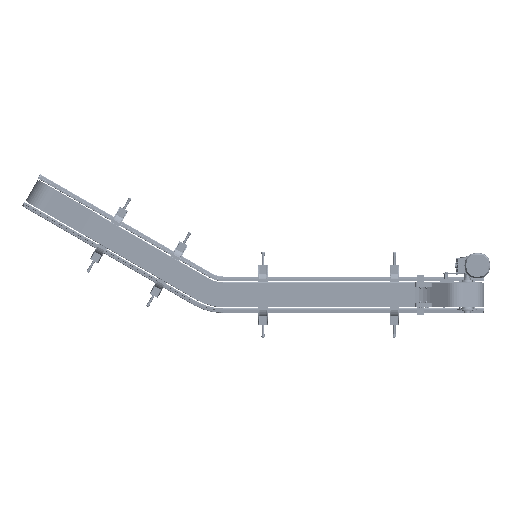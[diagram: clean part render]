
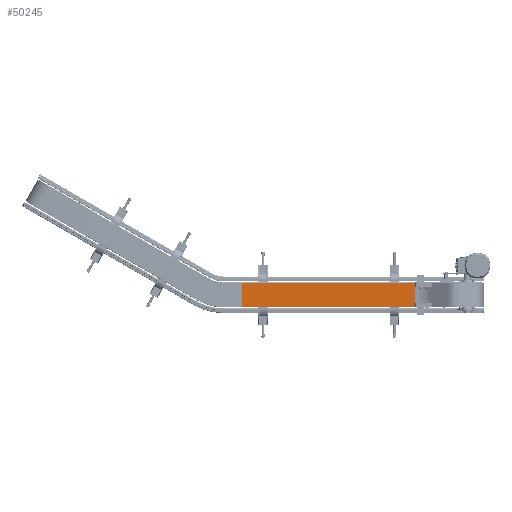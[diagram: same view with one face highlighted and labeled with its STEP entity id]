
A CAD part, front view. The second image highlights one B-rep face of the part: STEP entity #50245.
In plain terms, the highlighted planar face has unit normal (0, -1, 0).
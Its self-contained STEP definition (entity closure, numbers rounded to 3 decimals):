
#1324 = DIRECTION ( 'NONE',  ( 0., 0., 1. ) ) ;
#7129 = DIRECTION ( 'NONE',  ( 1., 0., 0. ) ) ;
#14271 = CARTESIAN_POINT ( 'NONE',  ( -57.15, -105.8, 0. ) ) ;
#28566 = DIRECTION ( 'NONE',  ( 0., 0., 1. ) ) ;
#31415 = VERTEX_POINT ( 'NONE', #113835 ) ;
#32348 = CARTESIAN_POINT ( 'NONE',  ( 57.15, -105.8, 0. ) ) ;
#43360 = LINE ( 'NONE', #132633, #154171 ) ;
#46686 = DIRECTION ( 'NONE',  ( 0., -1., 0. ) ) ;
#47363 = VERTEX_POINT ( 'NONE', #110176 ) ;
#49536 = VERTEX_POINT ( 'NONE', #148220 ) ;
#50245 = ADVANCED_FACE ( 'NONE', ( #145303 ), #135150, .T. ) ;
#50497 = LINE ( 'NONE', #14271, #149511 ) ;
#64419 = EDGE_CURVE ( 'NONE', #69762, #49536, #43360, .T. ) ;
#69762 = VERTEX_POINT ( 'NONE', #128739 ) ;
#71122 = EDGE_LOOP ( 'NONE', ( #85978, #82889, #122781, #120813 ) ) ;
#75139 = EDGE_CURVE ( 'NONE', #31415, #47363, #50497, .T. ) ;
#82889 = ORIENTED_EDGE ( 'NONE', *, *, #101085, .F. ) ;
#85335 = LINE ( 'NONE', #32348, #94760 ) ;
#85978 = ORIENTED_EDGE ( 'NONE', *, *, #64419, .T. ) ;
#87159 = DIRECTION ( 'NONE',  ( 1., 0., 0. ) ) ;
#94760 = VECTOR ( 'NONE', #135076, 1000. ) ;
#97205 = CARTESIAN_POINT ( 'NONE',  ( 57.15, -105.8, 0. ) ) ;
#101085 = EDGE_CURVE ( 'NONE', #47363, #49536, #164764, .T. ) ;
#110176 = CARTESIAN_POINT ( 'NONE',  ( -57.15, -105.8, 831.5 ) ) ;
#113835 = CARTESIAN_POINT ( 'NONE',  ( -57.15, -105.8, 0. ) ) ;
#116005 = VECTOR ( 'NONE', #87159, 1000. ) ;
#120813 = ORIENTED_EDGE ( 'NONE', *, *, #162395, .T. ) ;
#122781 = ORIENTED_EDGE ( 'NONE', *, *, #75139, .F. ) ;
#128739 = CARTESIAN_POINT ( 'NONE',  ( 57.15, -105.8, 0. ) ) ;
#132633 = CARTESIAN_POINT ( 'NONE',  ( 57.15, -105.8, 0. ) ) ;
#135076 = DIRECTION ( 'NONE',  ( 1., 0., 0. ) ) ;
#135150 = PLANE ( 'NONE',  #162698 ) ;
#145303 = FACE_OUTER_BOUND ( 'NONE', #71122, .T. ) ;
#148220 = CARTESIAN_POINT ( 'NONE',  ( 57.15, -105.8, 831.5 ) ) ;
#149511 = VECTOR ( 'NONE', #28566, 1000. ) ;
#152907 = CARTESIAN_POINT ( 'NONE',  ( 57.15, -105.8, 831.5 ) ) ;
#154171 = VECTOR ( 'NONE', #1324, 1000. ) ;
#162395 = EDGE_CURVE ( 'NONE', #31415, #69762, #85335, .T. ) ;
#162698 = AXIS2_PLACEMENT_3D ( 'NONE', #97205, #46686, #7129 ) ;
#164764 = LINE ( 'NONE', #152907, #116005 ) ;
